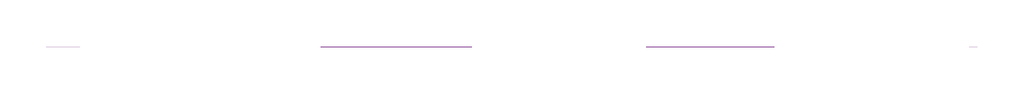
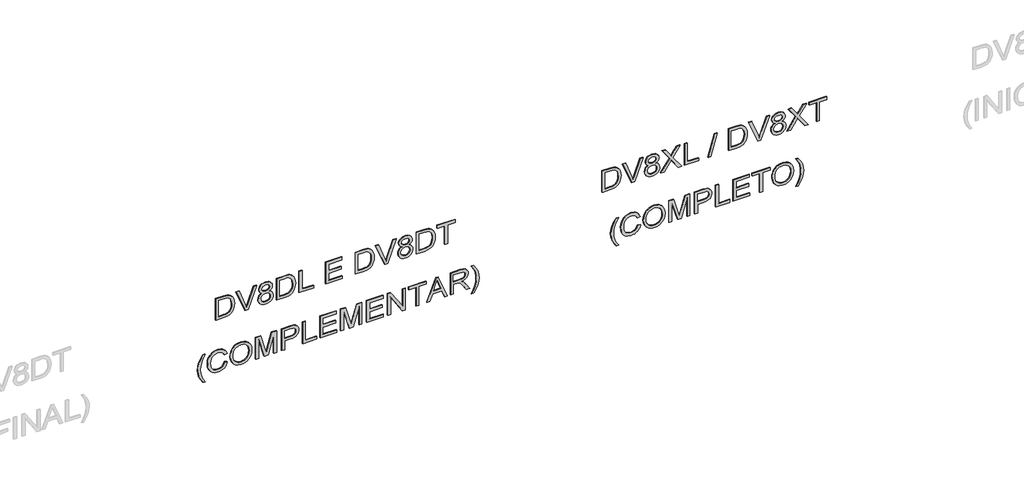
# One storey, part 4 of 7: 2 proxies.
"""IFC4 building model written with IfcOpenShell, lengths in millimetres."""

from ifc_helpers import new_model, si_unit, frame, origin, place, context, project, spatial, polyline, outline, extrude, element, save

model = new_model("IFC4")

# Units and contexts
model_context = context("Model", 3, world=origin())
ifc_project = project(units=[si_unit("LENGTHUNIT", "METRE", prefix="MILLI")], contexts=[model_context])

# Site, building, storey
site = spatial("IfcSite", under=ifc_project)
building = spatial("IfcBuilding", under=site)
storey = spatial("IfcBuildingStorey", under=building, Name="02 - Marelli - Planta Baixa - Painel Duplo", Elevation=-12000.0)

# Proxies
placement = place(None, origin())
element("IfcBuildingElementProxy", 1, Name="300mm Arial", ObjectType="300mm Arial", at=placement, inside=storey, context=model_context, shape_type="SweptSolid", body=[
    extrude(outline(polyline([(-6049.0625952, 22245.7423947), (-6049.0625952, 22354.7090417), (-6043.9122473, 22403.1591004), (-6037.5570858, 22422.7028314), (-6028.7922972, 22439.1747477), (-6016.9740882, 22453.5221456), (-6001.458665, 22466.692321), (-5981.8045694, 22478.133451), (-5957.570343, 22487.2937127), (-5929.1054736, 22493.3085833), (-5896.7594492, 22495.3135402), (-5858.6836627, 22492.3520901), (-5825.0960365, 22483.46774), (-5796.5483937, 22468.6237015), (-5773.5925572, 22447.7831864), (-5760.4039877, 22427.5128885), (-5752.0346723, 22403.4901942), (-5747.6936647, 22349.7058465), (-5747.6936647, 22245.7423947), (-6049.0625952, 22245.7423947)]), holes=[polyline([(-6011.3914789, 22283.413511), (-5785.364781, 22283.413511), (-5785.364781, 22349.0436589), (-5786.8730972, 22380.7918751), (-5791.3980458, 22402.4601246), (-5803.97961, 22423.7512951), (-5824.8017309, 22441.5659807), (-5855.1152073, 22453.6233131), (-5896.170838, 22457.6424239), (-5927.155699, 22455.5914818), (-5953.155759, 22449.4386554), (-5974.2629885, 22439.6070091), (-5990.5693579, 22426.5196071), (-5999.3801317, 22414.3427131), (-6005.9468253, 22398.5605755), (-6010.0303155, 22377.6464841), (-6011.3914789, 22350.0737285), (-6011.3914789, 22283.413511)])]), frame((0.0, 8778.3159498, 0.0), z_axis=(0.0, 1.0, 0.0), x_axis=(0.0, 0.0, 1.0)), (0.0, 0.0, 1.0), 10.0),
    extrude(outline(polyline([(-6049.0625952, 22636.138768), (-6049.0625952, 22675.0606831), (-5747.6936647, 22789.9134419), (-5747.6936647, 22749.5935753), (-5964.8176183, 22669.1009947), (-6013.7459236, 22653.0613397), (-5964.8176183, 22636.8009556), (-5747.6936647, 22556.5291042), (-5747.6936647, 22516.2092375), (-6049.0625952, 22636.138768)])), frame((0.0, 8778.3159498, 0.0), z_axis=(0.0, 1.0, 0.0), x_axis=(0.0, 0.0, 1.0)), (0.0, 0.0, 1.0), 10.0),
    extrude(outline(polyline([(-5883.074239, 22865.697133), (-5893.5588758, 22842.3734145), (-5910.4446594, 22825.0829607), (-5932.9590375, 22814.3775946), (-5960.3294579, 22810.8091393), (-5979.4800151, 22812.5105935), (-5996.9797017, 22817.6149562), (-6012.8285179, 22826.1222273), (-6027.0264637, 22838.0324069), (-6038.7274104, 22852.7200956), (-6047.0852295, 22869.5598939), (-6052.0999209, 22888.5518019), (-6053.7714847, 22909.6958196), (-6052.1068187, 22930.8398373), (-6047.1128206, 22949.8317453), (-6038.7894905, 22966.6715436), (-6027.1368283, 22981.3592322), (-6013.0377508, 22993.2694118), (-5997.3751749, 23001.776683), (-5980.1491004, 23006.8810457), (-5961.3595275, 23008.5824999), (-5935.0099796, 23005.1520003), (-5912.6151632, 22994.8605015), (-5895.0212068, 22977.9839149), (-5883.074239, 22954.7981522), (-5873.1690162, 22974.3234891), (-5859.7873087, 22988.1650491), (-5843.3521805, 22996.4148029), (-5824.2866961, 22999.1647208), (-5808.8908346, 22997.6196164), (-5794.7089837, 22992.9843033), (-5781.7411434, 22985.2587814), (-5769.9873136, 22974.4430507), (-5760.2338422, 22961.0935328), (-5753.267077, 22945.7666492), (-5747.6936647, 22909.1807848), (-5753.1383183, 22872.8156496), (-5759.9441352, 22857.6543128), (-5769.4722788, 22844.50713), (-5781.0007809, 22833.8845374), (-5793.8076728, 22826.2969713), (-5807.8929547, 22821.7444316), (-5823.2566265, 22820.2269184), (-5842.9567074, 22823.0136245), (-5859.6769441, 22831.3737428), (-5873.1414251, 22845.5280026), (-5883.074239, 22865.697133)]), holes=[polyline([(-5824.3602725, 22857.8980347), (-5809.4610517, 22861.2917461), (-5796.8426993, 22871.4728803), (-5788.2342606, 22887.8160379), (-5785.364781, 22909.6958196), (-5788.29864, 22931.4376455), (-5797.1002167, 22947.8083943), (-5810.2060128, 22958.0723019), (-5826.0525297, 22961.4936045), (-5841.3196325, 22958.1826665), (-5854.0115613, 22948.2498527), (-5862.5648177, 22932.0998331), (-5865.4159032, 22910.137278), (-5862.5464236, 22887.650491), (-5853.9379849, 22871.2521511), (-5840.8045977, 22861.2365638), (-5824.3602725, 22857.8980347)]), polyline([(-5959.0050828, 22848.4802556), (-5937.0241336, 22852.4625782), (-5919.0530981, 22864.409546), (-5907.0785391, 22883.4566363), (-5903.0870195, 22908.7393264), (-5907.1337214, 22934.6750071), (-5919.2738273, 22954.3566938), (-5937.5943506, 22966.7727111), (-5960.1823051, 22970.9113836), (-5982.3931806, 22966.9014698), (-6000.3182308, 22954.8717286), (-6012.154834, 22935.6315002), (-6016.1003684, 22909.9901252), (-6014.2241702, 22893.2514944), (-6008.5955757, 22877.0278984), (-5999.5364816, 22863.4806439), (-5987.3687846, 22854.7710377), (-5959.0050828, 22848.4802556)])]), frame((0.0, 8778.3159498, 0.0), z_axis=(0.0, 1.0, 0.0), x_axis=(0.0, 0.0, 1.0)), (0.0, 0.0, 1.0), 10.0),
    extrude(outline(polyline([(-6049.0625952, 23055.6713953), (-6049.0625952, 23164.6380422), (-6043.9122473, 23213.088101), (-6037.5570858, 23232.631832), (-6028.7922972, 23249.1037483), (-6016.9740882, 23263.4511461), (-6001.458665, 23276.6213216), (-5981.8045694, 23288.0624516), (-5957.570343, 23297.2227133), (-5929.1054736, 23303.2375839), (-5896.7594492, 23305.2425408), (-5858.6836627, 23302.2810907), (-5825.0960365, 23293.3967405), (-5796.5483937, 23278.552702), (-5773.5925572, 23257.712187), (-5760.4039877, 23237.4418891), (-5752.0346723, 23213.4191948), (-5747.6936647, 23159.6348471), (-5747.6936647, 23055.6713953), (-6049.0625952, 23055.6713953)]), holes=[polyline([(-6011.3914789, 23093.3425116), (-5785.364781, 23093.3425116), (-5785.364781, 23158.9726595), (-5786.8730972, 23190.7208757), (-5791.3980458, 23212.3891252), (-5803.97961, 23233.6802957), (-5824.8017309, 23251.4949813), (-5855.1152073, 23263.5523137), (-5896.170838, 23267.5714245), (-5927.155699, 23265.5204824), (-5953.155759, 23259.367656), (-5974.2629885, 23249.5360097), (-5990.5693579, 23236.4486077), (-5999.3801317, 23224.2717137), (-6005.9468253, 23208.4895761), (-6010.0303155, 23187.5754846), (-6011.3914789, 23160.0027291), (-6011.3914789, 23093.3425116)])]), frame((0.0, 8778.3159498, 0.0), z_axis=(0.0, 1.0, 0.0), x_axis=(0.0, 0.0, 1.0)), (0.0, 0.0, 1.0), 10.0),
    extrude(outline(polyline([(-6049.0625952, 23357.0403257), (-6049.0625952, 23545.3959072), (-6011.3914789, 23545.3959072), (-6011.3914789, 23394.711442), (-5747.6936647, 23394.711442), (-5747.6936647, 23357.0403257), (-6049.0625952, 23357.0403257)])), frame((0.0, 8778.3159498, 0.0), z_axis=(0.0, 1.0, 0.0), x_axis=(0.0, 0.0, 1.0)), (0.0, 0.0, 1.0), 10.0),
    extrude(outline(polyline([(-6049.0625952, 23705.4981515), (-6049.0625952, 23926.8159598), (-6011.3914789, 23926.8159598), (-6011.3914789, 23743.1692679), (-5912.5047986, 23743.1692679), (-5912.5047986, 23912.6892912), (-5874.8336823, 23912.6892912), (-5874.8336823, 23743.1692679), (-5785.364781, 23743.1692679), (-5785.364781, 23922.1070703), (-5747.6936647, 23922.1070703), (-5747.6936647, 23705.4981515), (-6049.0625952, 23705.4981515)])), frame((0.0, 8778.3159498, 0.0), z_axis=(0.0, 1.0, 0.0), x_axis=(0.0, 0.0, 1.0)), (0.0, 0.0, 1.0), 10.0),
    extrude(outline(polyline([(-6049.0625952, 24101.0448728), (-6049.0625952, 24210.0115197), (-6043.9122473, 24258.4615785), (-6037.5570858, 24278.0053095), (-6028.7922972, 24294.4772258), (-6016.9740882, 24308.8246236), (-6001.458665, 24321.9947991), (-5981.8045694, 24333.4359291), (-5957.570343, 24342.5961908), (-5929.1054736, 24348.6110614), (-5896.7594492, 24350.6160183), (-5858.6836627, 24347.6545682), (-5825.0960365, 24338.770218), (-5796.5483937, 24323.9261795), (-5773.5925572, 24303.0856645), (-5760.4039877, 24282.8153666), (-5752.0346723, 24258.7926723), (-5747.6936647, 24205.0083246), (-5747.6936647, 24101.0448728), (-6049.0625952, 24101.0448728)]), holes=[polyline([(-6011.3914789, 24138.7159891), (-5785.364781, 24138.7159891), (-5785.364781, 24204.346137), (-5786.8730972, 24236.0943532), (-5791.3980458, 24257.7626027), (-5803.97961, 24279.0537732), (-5824.8017309, 24296.8684588), (-5855.1152073, 24308.9257912), (-5896.170838, 24312.944902), (-5927.155699, 24310.8939599), (-5953.155759, 24304.7411335), (-5974.2629885, 24294.9094872), (-5990.5693579, 24281.8220852), (-5999.3801317, 24269.6451911), (-6005.9468253, 24253.8630536), (-6010.0303155, 24232.9489621), (-6011.3914789, 24205.3762066), (-6011.3914789, 24138.7159891)])]), frame((0.0, 8778.3159498, 0.0), z_axis=(0.0, 1.0, 0.0), x_axis=(0.0, 0.0, 1.0)), (0.0, 0.0, 1.0), 10.0),
    extrude(outline(polyline([(-6049.0625952, 24491.441246), (-6049.0625952, 24530.3631611), (-5747.6936647, 24645.21592), (-5747.6936647, 24604.8960534), (-5964.8176183, 24524.4034728), (-6013.7459236, 24508.3638178), (-5964.8176183, 24492.1034336), (-5747.6936647, 24411.8315823), (-5747.6936647, 24371.5117156), (-6049.0625952, 24491.441246)])), frame((0.0, 8778.3159498, 0.0), z_axis=(0.0, 1.0, 0.0), x_axis=(0.0, 0.0, 1.0)), (0.0, 0.0, 1.0), 10.0),
    extrude(outline(polyline([(-5883.074239, 24720.999611), (-5893.5588758, 24697.6758925), (-5910.4446594, 24680.3854388), (-5932.9590375, 24669.6800727), (-5960.3294579, 24666.1116174), (-5979.4800151, 24667.8130716), (-5996.9797017, 24672.9174343), (-6012.8285179, 24681.4247054), (-6027.0264637, 24693.334885), (-6038.7274104, 24708.0225737), (-6047.0852295, 24724.862372), (-6052.0999209, 24743.85428), (-6053.7714847, 24764.9982977), (-6052.1068187, 24786.1423153), (-6047.1128206, 24805.1342233), (-6038.7894905, 24821.9740217), (-6027.1368283, 24836.6617103), (-6013.0377508, 24848.5718899), (-5997.3751749, 24857.079161), (-5980.1491004, 24862.1835237), (-5961.3595275, 24863.884978), (-5935.0099796, 24860.4544784), (-5912.6151632, 24850.1629795), (-5895.0212068, 24833.286393), (-5883.074239, 24810.1006303), (-5873.1690162, 24829.6259672), (-5859.7873087, 24843.4675272), (-5843.3521805, 24851.717281), (-5824.2866961, 24854.4671989), (-5808.8908346, 24852.9220945), (-5794.7089837, 24848.2867814), (-5781.7411434, 24840.5612595), (-5769.9873136, 24829.7455288), (-5760.2338422, 24816.3960109), (-5753.267077, 24801.0691273), (-5747.6936647, 24764.4832629), (-5753.1383183, 24728.1181276), (-5759.9441352, 24712.9567909), (-5769.4722788, 24699.8096081), (-5781.0007809, 24689.1870155), (-5793.8076728, 24681.5994493), (-5807.8929547, 24677.0469097), (-5823.2566265, 24675.5293964), (-5842.9567074, 24678.3161025), (-5859.6769441, 24686.6762209), (-5873.1414251, 24700.8304806), (-5883.074239, 24720.999611)]), holes=[polyline([(-5824.3602725, 24713.2005127), (-5809.4610517, 24716.5942241), (-5796.8426993, 24726.7753584), (-5788.2342606, 24743.118516), (-5785.364781, 24764.9982977), (-5788.29864, 24786.7401236), (-5797.1002167, 24803.1108724), (-5810.2060128, 24813.37478), (-5826.0525297, 24816.7960826), (-5841.3196325, 24813.4851446), (-5854.0115613, 24803.5523307), (-5862.5648177, 24787.4023112), (-5865.4159032, 24765.439756), (-5862.5464236, 24742.9529691), (-5853.9379849, 24726.5546292), (-5840.8045977, 24716.5390418), (-5824.3602725, 24713.2005127)]), polyline([(-5959.0050828, 24703.7827337), (-5937.0241336, 24707.7650563), (-5919.0530981, 24719.712024), (-5907.0785391, 24738.7591143), (-5903.0870195, 24764.0418045), (-5907.1337214, 24789.9774851), (-5919.2738273, 24809.6591719), (-5937.5943506, 24822.0751892), (-5960.1823051, 24826.2138617), (-5982.3931806, 24822.2039479), (-6000.3182308, 24810.1742067), (-6012.154834, 24790.9339783), (-6016.1003684, 24765.2926032), (-6014.2241702, 24748.5539725), (-6008.5955757, 24732.3303765), (-5999.5364816, 24718.783122), (-5987.3687846, 24710.0735158), (-5959.0050828, 24703.7827337)])]), frame((0.0, 8778.3159498, 0.0), z_axis=(0.0, 1.0, 0.0), x_axis=(0.0, 0.0, 1.0)), (0.0, 0.0, 1.0), 10.0),
    extrude(outline(polyline([(-6049.0625952, 24910.9738733), (-6049.0625952, 25019.9405203), (-6043.9122473, 25068.3905791), (-6037.5570858, 25087.9343101), (-6028.7922972, 25104.4062264), (-6016.9740882, 25118.7536242), (-6001.458665, 25131.9237996), (-5981.8045694, 25143.3649297), (-5957.570343, 25152.5251914), (-5929.1054736, 25158.540062), (-5896.7594492, 25160.5450189), (-5858.6836627, 25157.5835688), (-5825.0960365, 25148.6992186), (-5796.5483937, 25133.8551801), (-5773.5925572, 25113.0146651), (-5760.4039877, 25092.7443672), (-5752.0346723, 25068.7216729), (-5747.6936647, 25014.9373252), (-5747.6936647, 24910.9738733), (-6049.0625952, 24910.9738733)]), holes=[polyline([(-6011.3914789, 24948.6449896), (-5785.364781, 24948.6449896), (-5785.364781, 25014.2751376), (-5786.8730972, 25046.0233538), (-5791.3980458, 25067.6916033), (-5803.97961, 25088.9827738), (-5824.8017309, 25106.7974594), (-5855.1152073, 25118.8547918), (-5896.170838, 25122.8739026), (-5927.155699, 25120.8229604), (-5953.155759, 25114.6701341), (-5974.2629885, 25104.8384877), (-5990.5693579, 25091.7510858), (-5999.3801317, 25079.5741917), (-6005.9468253, 25063.7920541), (-6010.0303155, 25042.8779627), (-6011.3914789, 25015.3052072), (-6011.3914789, 24948.6449896)])]), frame((0.0, 8778.3159498, 0.0), z_axis=(0.0, 1.0, 0.0), x_axis=(0.0, 0.0, 1.0)), (0.0, 0.0, 1.0), 10.0),
    extrude(outline(polyline([(-6049.0625952, 25287.6850364), (-6049.0625952, 25325.3561527), (-5785.364781, 25325.3561527), (-5785.364781, 25424.242833), (-5747.6936647, 25424.242833), (-5747.6936647, 25188.7983561), (-5785.364781, 25188.7983561), (-5785.364781, 25287.6850364), (-6049.0625952, 25287.6850364)])), frame((0.0, 8778.3159498, 0.0), z_axis=(0.0, 1.0, 0.0), x_axis=(0.0, 0.0, 1.0)), (0.0, 0.0, 1.0), 10.0),
    extrude(outline(polyline([(-6865.6715139, 22080.9312608), (-6865.6715139, 22109.1845981), (-6817.4329873, 22080.3426497), (-6769.1760666, 22059.7412579), (-6720.9007518, 22047.3804229), (-6672.6070429, 22043.2601445), (-6634.7335915, 22045.6329834), (-6597.0440811, 22052.7515), (-6539.2130314, 22073.9415029), (-6479.5425718, 22109.1845981), (-6479.5425718, 22080.9312608), (-6530.0527697, 22046.2399887), (-6580.7836969, 22021.9229888), (-6625.5733298, 22009.6725184), (-6672.3863137, 22005.5890282), (-6725.7659912, 22011.0520759), (-6777.3062587, 22027.4412187), (-6824.7078538, 22051.7398245), (-6865.6715139, 22080.9312608)])), frame((0.0, 8778.3159498, 0.0), z_axis=(0.0, 1.0, 0.0), x_axis=(0.0, 0.0, 1.0)), (0.0, 0.0, 1.0), 10.0),
    extrude(outline(polyline([(-6673.7842653, 22363.4646331), (-6706.0475162, 22351.278542), (-6729.2608701, 22331.4956878), (-6743.2771741, 22305.2932927), (-6747.9492755, 22273.8485791), (-6744.5187759, 22246.8736318), (-6734.2272771, 22221.8668532), (-6717.0012026, 22201.0079441), (-6692.7669762, 22186.4766053), (-6662.674229, 22177.95094), (-6627.8725923, 22175.1090516), (-6599.4537081, 22177.5094816), (-6571.8809526, 22184.7107717), (-6547.4903763, 22197.8349619), (-6528.61803, 22218.0040922), (-6516.5331064, 22244.5835664), (-6512.5047986, 22276.9387879), (-6516.1376333, 22305.0081841), (-6527.0361374, 22327.853656), (-6545.8808926, 22345.6959328), (-6573.3524806, 22358.7557436), (-6564.3761599, 22396.4268599), (-6526.5578908, 22379.7893967), (-6511.2356057, 22367.9872824), (-6498.3045536, 22353.8629131), (-6488.0360474, 22337.6830031), (-6480.7014001, 22319.7142669), (-6474.8336823, 22278.4103159), (-6479.3678279, 22240.5552586), (-6492.9702646, 22206.0111392), (-6515.3098988, 22176.8840822), (-6546.0556365, 22155.2802121), (-6584.0026643, 22141.8985045), (-6627.9461687, 22137.4379353), (-6669.6088046, 22141.3834697), (-6708.5123256, 22153.2200729), (-6741.6033111, 22172.607454), (-6765.8283405, 22199.2053223), (-6780.672379, 22233.9057915), (-6785.6203918, 22277.6009755), (-6783.9856162, 22300.0233831), (-6779.0812893, 22320.6431689), (-6770.9074112, 22339.460333), (-6759.4639819, 22356.4748752), (-6744.9073512, 22371.3511034), (-6727.393869, 22383.7533252), (-6706.9235352, 22393.6815405), (-6683.4963499, 22401.1357494), (-6673.7842653, 22363.4646331)])), frame((0.0, 8778.3159498, 0.0), z_axis=(0.0, 1.0, 0.0), x_axis=(0.0, 0.0, 1.0)), (0.0, 0.0, 1.0), 10.0),
    extrude(outline(polyline([(-6634.2001626, 22438.8068658), (-6672.7449986, 22443.1110851), (-6709.2113014, 22456.0237431), (-6740.9043353, 22477.2873224), (-6765.1293647, 22506.6443057), (-6780.497635, 22542.292071), (-6785.6203918, 22582.4279967), (-6780.9850787, 22620.2370687), (-6767.0791392, 22655.3789963), (-6744.1600909, 22685.3429848), (-6712.4854512, 22707.6182396), (-6674.0233886, 22721.4414056), (-6630.7420718, 22726.0491276), (-6588.0309722, 22721.6713318), (-6550.1023385, 22708.5379446), (-6518.482881, 22687.0536361), (-6494.69931, 22657.6230765), (-6479.8000892, 22622.1776462), (-6474.8336823, 22582.6487259), (-6477.4778341, 22552.3582421), (-6485.4102896, 22524.9832231), (-6498.6310488, 22500.523669), (-6517.1401117, 22478.9795796), (-6540.3212759, 22461.4040173), (-6567.5583392, 22448.8500442), (-6598.8513014, 22441.3176604), (-6634.2001626, 22438.8068658)]), holes=[polyline([(-6634.5680446, 22476.4779821), (-6604.0315397, 22478.4415522), (-6578.1993259, 22484.3322627), (-6557.071403, 22494.1501134), (-6540.6477712, 22507.8951044), (-6528.3352207, 22524.3624223), (-6519.5405417, 22542.3472533), (-6514.2637344, 22561.8495976), (-6512.5047986, 22582.8694551), (-6516.1560274, 22612.0333002), (-6527.1097138, 22638.1621189), (-6544.7036702, 22659.8211714), (-6568.275709, 22675.5757178), (-6597.0992634, 22685.1774379), (-6630.4477662, 22688.3780113), (-6656.9858537, 22686.5087109), (-6680.3141707, 22680.9008097), (-6700.4327173, 22671.5543078), (-6717.3414935, 22658.4692051), (-6730.7323981, 22642.4870316), (-6740.29733, 22624.4493176), (-6746.0362891, 22604.3560628), (-6747.9492755, 22582.2072675), (-6746.0546832, 22560.4309526), (-6740.3709064, 22540.5722227), (-6730.897945, 22522.6310776), (-6717.6357991, 22506.6075175), (-6701.0765108, 22493.4258457), (-6681.7121223, 22484.0103659), (-6659.5426335, 22478.361078), (-6634.5680446, 22476.4779821)])]), frame((0.0, 8778.3159498, 0.0), z_axis=(0.0, 1.0, 0.0), x_axis=(0.0, 0.0, 1.0)), (0.0, 0.0, 1.0), 10.0),
    extrude(outline(polyline([(-6780.9115023, 22777.8469125), (-6780.9115023, 22815.5180288), (-6517.2136881, 22815.5180288), (-6780.9115023, 22891.2281434), (-6780.9115023, 22942.2901644), (-6517.2136881, 23018.000279), (-6780.9115023, 23018.000279), (-6780.9115023, 23055.6713953), (-6479.5425718, 23055.6713953), (-6479.5425718, 22990.8505877), (-6688.2788159, 22930.2236349), (-6736.3242044, 22916.7591539), (-6691.9576358, 22904.3247424), (-6479.5425718, 22842.6677201), (-6479.5425718, 22777.8469125), (-6780.9115023, 22777.8469125)])), frame((0.0, 8778.3159498, 0.0), z_axis=(0.0, 1.0, 0.0), x_axis=(0.0, 0.0, 1.0)), (0.0, 0.0, 1.0), 10.0),
    extrude(outline(polyline([(-6780.9115023, 23121.5958488), (-6780.9115023, 23159.2669651), (-6658.4803743, 23159.2669651), (-6658.4803743, 23235.8599965), (-6656.8157082, 23265.0583306), (-6651.8217101, 23289.3776298), (-6643.49838, 23308.8178939), (-6631.8457178, 23323.3791232), (-6617.7880271, 23333.9856209), (-6602.2496113, 23341.5616908), (-6585.2304705, 23346.1073327), (-6566.7306047, 23347.6225466), (-6545.2738873, 23345.3784665), (-6525.6381858, 23338.646226), (-6508.9915255, 23328.2259684), (-6496.5019318, 23314.9178373), (-6487.7739314, 23298.3907386), (-6482.4120514, 23278.3135787), (-6479.5425718, 23233.2848225), (-6479.5425718, 23121.5958488), (-6780.9115023, 23121.5958488)]), holes=[polyline([(-6620.809258, 23159.2669651), (-6517.2136881, 23159.2669651), (-6517.2136881, 23237.1843717), (-6519.7888621, 23274.855488), (-6526.1164324, 23289.0833242), (-6536.8585867, 23300.2761339), (-6551.1324081, 23307.5326062), (-6568.0549798, 23309.9514303), (-6590.3302347, 23305.8495461), (-6606.9768949, 23293.5438933), (-6617.3511672, 23271.4709736), (-6620.809258, 23238.0672885), (-6620.809258, 23159.2669651)])]), frame((0.0, 8778.3159498, 0.0), z_axis=(0.0, 1.0, 0.0), x_axis=(0.0, 0.0, 1.0)), (0.0, 0.0, 1.0), 10.0),
    extrude(outline(polyline([(-6780.9115023, 23399.4203316), (-6780.9115023, 23587.7759131), (-6743.2403859, 23587.7759131), (-6743.2403859, 23437.0914479), (-6479.5425718, 23437.0914479), (-6479.5425718, 23399.4203316), (-6780.9115023, 23399.4203316)])), frame((0.0, 8778.3159498, 0.0), z_axis=(0.0, 1.0, 0.0), x_axis=(0.0, 0.0, 1.0)), (0.0, 0.0, 1.0), 10.0),
    extrude(outline(polyline([(-6780.9115023, 23630.1559189), (-6780.9115023, 23851.4737272), (-6743.2403859, 23851.4737272), (-6743.2403859, 23667.8270352), (-6644.3537056, 23667.8270352), (-6644.3537056, 23837.3470586), (-6606.6825893, 23837.3470586), (-6606.6825893, 23667.8270352), (-6517.2136881, 23667.8270352), (-6517.2136881, 23846.7648377), (-6479.5425718, 23846.7648377), (-6479.5425718, 23630.1559189), (-6780.9115023, 23630.1559189)])), frame((0.0, 8778.3159498, 0.0), z_axis=(0.0, 1.0, 0.0), x_axis=(0.0, 0.0, 1.0)), (0.0, 0.0, 1.0), 10.0),
    extrude(outline(polyline([(-6780.9115023, 23907.9804017), (-6780.9115023, 23945.651518), (-6517.2136881, 23945.651518), (-6780.9115023, 24021.3616326), (-6780.9115023, 24072.4236535), (-6517.2136881, 24148.1337681), (-6780.9115023, 24148.1337681), (-6780.9115023, 24185.8048844), (-6479.5425718, 24185.8048844), (-6479.5425718, 24120.9840769), (-6688.2788159, 24060.3571241), (-6736.3242044, 24046.8926431), (-6691.9576358, 24034.4582316), (-6479.5425718, 23972.8012092), (-6479.5425718, 23907.9804017), (-6780.9115023, 23907.9804017)])), frame((0.0, 8778.3159498, 0.0), z_axis=(0.0, 1.0, 0.0), x_axis=(0.0, 0.0, 1.0)), (0.0, 0.0, 1.0), 10.0),
    extrude(outline(polyline([(-6780.9115023, 24251.729338), (-6780.9115023, 24473.0471463), (-6743.2403859, 24473.0471463), (-6743.2403859, 24289.4004543), (-6644.3537056, 24289.4004543), (-6644.3537056, 24458.9204777), (-6606.6825893, 24458.9204777), (-6606.6825893, 24289.4004543), (-6517.2136881, 24289.4004543), (-6517.2136881, 24468.3382567), (-6479.5425718, 24468.3382567), (-6479.5425718, 24251.729338), (-6780.9115023, 24251.729338)])), frame((0.0, 8778.3159498, 0.0), z_axis=(0.0, 1.0, 0.0), x_axis=(0.0, 0.0, 1.0)), (0.0, 0.0, 1.0), 10.0),
    extrude(outline(polyline([(-6780.9115023, 24529.5538207), (-6780.9115023, 24567.224937), (-6542.082511, 24567.224937), (-6780.9115023, 24724.678431), (-6780.9115023, 24764.9982977), (-6479.5425718, 24764.9982977), (-6479.5425718, 24727.3271813), (-6718.2979867, 24727.3271813), (-6479.5425718, 24569.8736874), (-6479.5425718, 24529.5538207), (-6780.9115023, 24529.5538207)])), frame((0.0, 8778.3159498, 0.0), z_axis=(0.0, 1.0, 0.0), x_axis=(0.0, 0.0, 1.0)), (0.0, 0.0, 1.0), 10.0),
    extrude(outline(polyline([(-6780.9115023, 24906.2649838), (-6780.9115023, 24943.9361001), (-6517.2136881, 24943.9361001), (-6517.2136881, 25042.8227804), (-6479.5425718, 25042.8227804), (-6479.5425718, 24807.3783035), (-6517.2136881, 24807.3783035), (-6517.2136881, 24906.2649838), (-6780.9115023, 24906.2649838)])), frame((0.0, 8778.3159498, 0.0), z_axis=(0.0, 1.0, 0.0), x_axis=(0.0, 0.0, 1.0)), (0.0, 0.0, 1.0), 10.0),
    extrude(outline(polyline([(-6780.9115023, 25050.1068439), (-6780.9115023, 25089.9116758), (-6686.7337115, 25124.3454305), (-6686.7337115, 25248.4688157), (-6780.9115023, 25282.9761469), (-6780.9115023, 25322.7809787), (-6479.5425718, 25202.4835663), (-6479.5425718, 25170.4042563), (-6780.9115023, 25050.1068439)]), holes=[polyline([(-6649.0625952, 25138.1777936), (-6568.4964382, 25167.6819296), (-6517.2136881, 25186.4439113), (-6574.9711614, 25207.5603379), (-6649.0625952, 25234.7100291), (-6649.0625952, 25138.1777936)])]), frame((0.0, 8778.3159498, 0.0), z_axis=(0.0, 1.0, 0.0), x_axis=(0.0, 0.0, 1.0)), (0.0, 0.0, 1.0), 10.0),
    extrude(outline(polyline([(-6780.9115023, 25363.027269), (-6780.9115023, 25400.6983853), (-6649.0625952, 25400.6983853), (-6649.0625952, 25446.1685999), (-6650.3869704, 25468.0207904), (-6657.5606693, 25485.9366436), (-6677.0952032, 25505.8390595), (-6718.4451395, 25534.1659732), (-6780.9115023, 25573.3821939), (-6780.9115023, 25617.1601513), (-6699.2416993, 25566.9074707), (-6660.466937, 25536.3732651), (-6644.3537056, 25514.962533), (-6634.3657095, 25552.0726293), (-6626.3504805, 25566.454516), (-6616.3210976, 25578.0542952), (-6591.7097921, 25593.3673832), (-6562.0217151, 25598.4717459), (-6538.1553707, 25595.3907342), (-6516.4411359, 25586.1476991), (-6498.929953, 25571.745119), (-6487.6727639, 25553.1854723), (-6481.5751198, 25527.7924176), (-6479.5425718, 25492.8896133), (-6479.5425718, 25363.027269), (-6780.9115023, 25363.027269)]), holes=[polyline([(-6611.3914789, 25400.6983853), (-6517.2136881, 25400.6983853), (-6517.2136881, 25494.5082941), (-6520.4694438, 25524.3159327), (-6530.2367107, 25544.8713392), (-6545.043961, 25556.818307), (-6563.4196667, 25560.8006296), (-6576.7277979, 25558.7128993), (-6588.9874654, 25552.4497083), (-6599.1226143, 25542.1674066), (-6606.0571899, 25528.0223438), (-6610.0579066, 25509.2327709), (-6611.3914789, 25485.0169386), (-6611.3914789, 25400.6983853)])]), frame((0.0, 8778.3159498, 0.0), z_axis=(0.0, 1.0, 0.0), x_axis=(0.0, 0.0, 1.0)), (0.0, 0.0, 1.0), 10.0),
    extrude(outline(polyline([(-6865.6715139, 25669.105089), (-6824.7078538, 25698.1585696), (-6777.3062587, 25722.4847665), (-6725.7659912, 25738.9566828), (-6672.3863137, 25744.4473216), (-6625.5733298, 25740.3638315), (-6580.7836969, 25728.113361), (-6530.0527697, 25703.7963611), (-6479.5425718, 25669.105089), (-6479.5425718, 25640.8517518), (-6539.8016426, 25676.3155761), (-6568.1469503, 25688.290135), (-6597.7062687, 25697.2848498), (-6635.009503, 25704.4033664), (-6672.6070429, 25706.7762053), (-6720.9007518, 25702.655927), (-6769.1760666, 25690.2950919), (-6817.4329873, 25669.6937002), (-6865.6715139, 25640.8517518), (-6865.6715139, 25669.105089)])), frame((0.0, 8778.3159498, 0.0), z_axis=(0.0, 1.0, 0.0), x_axis=(0.0, 0.0, 1.0)), (0.0, 0.0, 1.0), 10.0),
])
element("IfcBuildingElementProxy", 2, Name="300mm Arial", ObjectType="300mm Arial", at=placement, inside=storey, context=model_context, shape_type="SweptSolid", body=[
    extrude(outline(polyline([(-6049.0625952, 27377.5913018), (-6049.0625952, 27486.5579487), (-6043.9122473, 27535.0080075), (-6037.5570858, 27554.5517385), (-6028.7922972, 27571.0236548), (-6016.9740882, 27585.3710526), (-6001.458665, 27598.5412281), (-5981.8045694, 27609.9823581), (-5957.570343, 27619.1426198), (-5929.1054736, 27625.1574904), (-5896.7594492, 27627.1624473), (-5858.6836627, 27624.2009972), (-5825.0960365, 27615.316647), (-5796.5483937, 27600.4726085), (-5773.5925572, 27579.6320935), (-5760.4039877, 27559.3617956), (-5752.0346723, 27535.3391013), (-5747.6936647, 27481.5547536), (-5747.6936647, 27377.5913018), (-6049.0625952, 27377.5913018)]), holes=[polyline([(-6011.3914789, 27415.2624181), (-5785.364781, 27415.2624181), (-5785.364781, 27480.892566), (-5786.8730972, 27512.6407822), (-5791.3980458, 27534.3090317), (-5803.97961, 27555.6002022), (-5824.8017309, 27573.4148878), (-5855.1152073, 27585.4722202), (-5896.170838, 27589.491331), (-5927.155699, 27587.4403889), (-5953.155759, 27581.2875625), (-5974.2629885, 27571.4559162), (-5990.5693579, 27558.3685142), (-5999.3801317, 27546.1916201), (-6005.9468253, 27530.4094826), (-6010.0303155, 27509.4953911), (-6011.3914789, 27481.9226356), (-6011.3914789, 27415.2624181)])]), frame((0.0, 8778.3159498, 0.0), z_axis=(0.0, 1.0, 0.0), x_axis=(0.0, 0.0, 1.0)), (0.0, 0.0, 1.0), 10.0),
    extrude(outline(polyline([(-6049.0625952, 27767.987675), (-6049.0625952, 27806.9095901), (-5747.6936647, 27921.762349), (-5747.6936647, 27881.4424823), (-5964.8176183, 27800.9499018), (-6013.7459236, 27784.9102468), (-5964.8176183, 27768.6498626), (-5747.6936647, 27688.3780113), (-5747.6936647, 27648.0581446), (-6049.0625952, 27767.987675)])), frame((0.0, 8778.3159498, 0.0), z_axis=(0.0, 1.0, 0.0), x_axis=(0.0, 0.0, 1.0)), (0.0, 0.0, 1.0), 10.0),
    extrude(outline(polyline([(-5883.074239, 27997.54604), (-5893.5588758, 27974.2223215), (-5910.4446594, 27956.9318678), (-5932.9590375, 27946.2265017), (-5960.3294579, 27942.6580463), (-5979.4800151, 27944.3595006), (-5996.9797017, 27949.4638633), (-6012.8285179, 27957.9711344), (-6027.0264637, 27969.881314), (-6038.7274104, 27984.5690026), (-6047.0852295, 28001.408801), (-6052.0999209, 28020.400709), (-6053.7714847, 28041.5447266), (-6052.1068187, 28062.6887443), (-6047.1128206, 28081.6806523), (-6038.7894905, 28098.5204507), (-6027.1368283, 28113.2081393), (-6013.0377508, 28125.1183189), (-5997.3751749, 28133.62559), (-5980.1491004, 28138.7299527), (-5961.3595275, 28140.431407), (-5935.0099796, 28137.0009073), (-5912.6151632, 28126.7094085), (-5895.0212068, 28109.832822), (-5883.074239, 28086.6470593), (-5873.1690162, 28106.1723962), (-5859.7873087, 28120.0139562), (-5843.3521805, 28128.26371), (-5824.2866961, 28131.0136279), (-5808.8908346, 28129.4685235), (-5794.7089837, 28124.8332104), (-5781.7411434, 28117.1076885), (-5769.9873136, 28106.2919578), (-5760.2338422, 28092.9424399), (-5753.267077, 28077.6155563), (-5747.6936647, 28041.0296919), (-5753.1383183, 28004.6645566), (-5759.9441352, 27989.5032199), (-5769.4722788, 27976.3560371), (-5781.0007809, 27965.7334445), (-5793.8076728, 27958.1458783), (-5807.8929547, 27953.5933387), (-5823.2566265, 27952.0758254), (-5842.9567074, 27954.8625315), (-5859.6769441, 27963.2226499), (-5873.1414251, 27977.3769096), (-5883.074239, 27997.54604)]), holes=[polyline([(-5824.3602725, 27989.7469417), (-5809.4610517, 27993.1406531), (-5796.8426993, 28003.3217874), (-5788.2342606, 28019.664945), (-5785.364781, 28041.5447266), (-5788.29864, 28063.2865526), (-5797.1002167, 28079.6573013), (-5810.2060128, 28089.921209), (-5826.0525297, 28093.3425116), (-5841.3196325, 28090.0315736), (-5854.0115613, 28080.0987597), (-5862.5648177, 28063.9487402), (-5865.4159032, 28041.986185), (-5862.5464236, 28019.4993981), (-5853.9379849, 28003.1010582), (-5840.8045977, 27993.0854708), (-5824.3602725, 27989.7469417)]), polyline([(-5959.0050828, 27980.3291627), (-5937.0241336, 27984.3114852), (-5919.0530981, 27996.258453), (-5907.0785391, 28015.3055433), (-5903.0870195, 28040.5882335), (-5907.1337214, 28066.5239141), (-5919.2738273, 28086.2056009), (-5937.5943506, 28098.6216182), (-5960.1823051, 28102.7602906), (-5982.3931806, 28098.7503769), (-6000.3182308, 28086.7206357), (-6012.154834, 28067.4804073), (-6016.1003684, 28041.8390322), (-6014.2241702, 28025.1004015), (-6008.5955757, 28008.8768055), (-5999.5364816, 27995.329551), (-5987.3687846, 27986.6199448), (-5959.0050828, 27980.3291627)])]), frame((0.0, 8778.3159498, 0.0), z_axis=(0.0, 1.0, 0.0), x_axis=(0.0, 0.0, 1.0)), (0.0, 0.0, 1.0), 10.0),
    extrude(outline(polyline([(-6049.0625952, 28154.5580756), (-6049.0625952, 28200.3961722), (-5942.082511, 28275.959134), (-5917.2136881, 28293.6910461), (-5939.875219, 28309.8042775), (-6049.0625952, 28387.2066493), (-6049.0625952, 28432.3825583), (-5885.2815309, 28316.2054242), (-5747.6936647, 28413.5470002), (-5747.6936647, 28367.7089036), (-5824.3602725, 28313.4830975), (-5854.9680545, 28291.8516362), (-5824.8753073, 28273.38396), (-5747.6936647, 28218.5695427), (-5747.6936647, 28173.3936337), (-5884.8400725, 28270.7352096), (-6049.0625952, 28154.5580756)])), frame((0.0, 8778.3159498, 0.0), z_axis=(0.0, 1.0, 0.0), x_axis=(0.0, 0.0, 1.0)), (0.0, 0.0, 1.0), 10.0),
    extrude(outline(polyline([(-6049.0625952, 28470.0536746), (-6049.0625952, 28658.4092562), (-6011.3914789, 28658.4092562), (-6011.3914789, 28507.7247909), (-5747.6936647, 28507.7247909), (-5747.6936647, 28470.0536746), (-6049.0625952, 28470.0536746)])), frame((0.0, 8778.3159498, 0.0), z_axis=(0.0, 1.0, 0.0), x_axis=(0.0, 0.0, 1.0)), (0.0, 0.0, 1.0), 10.0),
    extrude(outline(polyline([(-6049.0625952, 28785.5492737), (-6049.0625952, 28819.54157), (-5747.6936647, 28904.3015817), (-5747.6936647, 28870.3092854), (-6049.0625952, 28785.5492737)])), frame((0.0, 8778.3159498, 0.0), z_axis=(0.0, 1.0, 0.0), x_axis=(0.0, 0.0, 1.0)), (0.0, 0.0, 1.0), 10.0),
    extrude(outline(polyline([(-6049.0625952, 29053.9559774), (-6049.0625952, 29162.9226243), (-6043.9122473, 29211.3726831), (-6037.5570858, 29230.9164141), (-6028.7922972, 29247.3883304), (-6016.9740882, 29261.7357283), (-6001.458665, 29274.9059037), (-5981.8045694, 29286.3470337), (-5957.570343, 29295.5072954), (-5929.1054736, 29301.522166), (-5896.7594492, 29303.5271229), (-5858.6836627, 29300.5656728), (-5825.0960365, 29291.6813227), (-5796.5483937, 29276.8372842), (-5773.5925572, 29255.9967691), (-5760.4039877, 29235.7264712), (-5752.0346723, 29211.7037769), (-5747.6936647, 29157.9194292), (-5747.6936647, 29053.9559774), (-6049.0625952, 29053.9559774)]), holes=[polyline([(-6011.3914789, 29091.6270937), (-5785.364781, 29091.6270937), (-5785.364781, 29157.2572416), (-5786.8730972, 29189.0054578), (-5791.3980458, 29210.6737073), (-5803.97961, 29231.9648778), (-5824.8017309, 29249.7795634), (-5855.1152073, 29261.8368958), (-5896.170838, 29265.8560066), (-5927.155699, 29263.8050645), (-5953.155759, 29257.6522381), (-5974.2629885, 29247.8205918), (-5990.5693579, 29234.7331898), (-5999.3801317, 29222.5562958), (-6005.9468253, 29206.7741582), (-6010.0303155, 29185.8600667), (-6011.3914789, 29158.2873112), (-6011.3914789, 29091.6270937)])]), frame((0.0, 8778.3159498, 0.0), z_axis=(0.0, 1.0, 0.0), x_axis=(0.0, 0.0, 1.0)), (0.0, 0.0, 1.0), 10.0),
    extrude(outline(polyline([(-6049.0625952, 29444.3523507), (-6049.0625952, 29483.2742657), (-5747.6936647, 29598.1270246), (-5747.6936647, 29557.807158), (-5964.8176183, 29477.3145774), (-6013.7459236, 29461.2749224), (-5964.8176183, 29445.0145382), (-5747.6936647, 29364.7426869), (-5747.6936647, 29324.4228202), (-6049.0625952, 29444.3523507)])), frame((0.0, 8778.3159498, 0.0), z_axis=(0.0, 1.0, 0.0), x_axis=(0.0, 0.0, 1.0)), (0.0, 0.0, 1.0), 10.0),
    extrude(outline(polyline([(-5883.074239, 29673.9107156), (-5893.5588758, 29650.5869972), (-5910.4446594, 29633.2965434), (-5932.9590375, 29622.5911773), (-5960.3294579, 29619.022722), (-5979.4800151, 29620.7241762), (-5996.9797017, 29625.8285389), (-6012.8285179, 29634.33581), (-6027.0264637, 29646.2459896), (-6038.7274104, 29660.9336783), (-6047.0852295, 29677.7734766), (-6052.0999209, 29696.7653846), (-6053.7714847, 29717.9094023), (-6052.1068187, 29739.0534199), (-6047.1128206, 29758.0453279), (-6038.7894905, 29774.8851263), (-6027.1368283, 29789.5728149), (-6013.0377508, 29801.4829945), (-5997.3751749, 29809.9902657), (-5980.1491004, 29815.0946283), (-5961.3595275, 29816.7960826), (-5935.0099796, 29813.365583), (-5912.6151632, 29803.0740842), (-5895.0212068, 29786.1974976), (-5883.074239, 29763.0117349), (-5873.1690162, 29782.5370718), (-5859.7873087, 29796.3786318), (-5843.3521805, 29804.6283856), (-5824.2866961, 29807.3783035), (-5808.8908346, 29805.8331991), (-5794.7089837, 29801.197886), (-5781.7411434, 29793.4723641), (-5769.9873136, 29782.6566334), (-5760.2338422, 29769.3071155), (-5753.267077, 29753.9802319), (-5747.6936647, 29717.3943675), (-5753.1383183, 29681.0292323), (-5759.9441352, 29665.8678955), (-5769.4722788, 29652.7207127), (-5781.0007809, 29642.0981201), (-5793.8076728, 29634.510554), (-5807.8929547, 29629.9580143), (-5823.2566265, 29628.440501), (-5842.9567074, 29631.2272072), (-5859.6769441, 29639.5873255), (-5873.1414251, 29653.7415853), (-5883.074239, 29673.9107156)]), holes=[polyline([(-5824.3602725, 29666.1116174), (-5809.4610517, 29669.5053288), (-5796.8426993, 29679.686463), (-5788.2342606, 29696.0296206), (-5785.364781, 29717.9094023), (-5788.29864, 29739.6512282), (-5797.1002167, 29756.021977), (-5810.2060128, 29766.2858846), (-5826.0525297, 29769.7071872), (-5841.3196325, 29766.3962492), (-5854.0115613, 29756.4634354), (-5862.5648177, 29740.3134158), (-5865.4159032, 29718.3508607), (-5862.5464236, 29695.8640737), (-5853.9379849, 29679.4657338), (-5840.8045977, 29669.4501465), (-5824.3602725, 29666.1116174)]), polyline([(-5959.0050828, 29656.6938383), (-5937.0241336, 29660.6761609), (-5919.0530981, 29672.6231287), (-5907.0785391, 29691.670219), (-5903.0870195, 29716.9529091), (-5907.1337214, 29742.8885897), (-5919.2738273, 29762.5702765), (-5937.5943506, 29774.9862938), (-5960.1823051, 29779.1249663), (-5982.3931806, 29775.1150525), (-6000.3182308, 29763.0853113), (-6012.154834, 29743.8450829), (-6016.1003684, 29718.2037079), (-6014.2241702, 29701.4650771), (-6008.5955757, 29685.2414811), (-5999.5364816, 29671.6942266), (-5987.3687846, 29662.9846204), (-5959.0050828, 29656.6938383)])]), frame((0.0, 8778.3159498, 0.0), z_axis=(0.0, 1.0, 0.0), x_axis=(0.0, 0.0, 1.0)), (0.0, 0.0, 1.0), 10.0),
    extrude(outline(polyline([(-6049.0625952, 29830.9227512), (-6049.0625952, 29876.7608478), (-5942.082511, 29952.3238096), (-5917.2136881, 29970.0557218), (-5939.875219, 29986.1689532), (-6049.0625952, 30063.5713249), (-6049.0625952, 30108.7472339), (-5885.2815309, 29992.5700999), (-5747.6936647, 30089.9116758), (-5747.6936647, 30044.0735792), (-5824.3602725, 29989.8477731), (-5854.9680545, 29968.2163118), (-5824.8753073, 29949.7486356), (-5747.6936647, 29894.9342184), (-5747.6936647, 29849.7583093), (-5884.8400725, 29947.0998853), (-6049.0625952, 29830.9227512)])), frame((0.0, 8778.3159498, 0.0), z_axis=(0.0, 1.0, 0.0), x_axis=(0.0, 0.0, 1.0)), (0.0, 0.0, 1.0), 10.0),
    extrude(outline(polyline([(-6049.0625952, 30221.7605829), (-6049.0625952, 30259.4316992), (-5785.364781, 30259.4316992), (-5785.364781, 30358.3183795), (-5747.6936647, 30358.3183795), (-5747.6936647, 30122.8739026), (-5785.364781, 30122.8739026), (-5785.364781, 30221.7605829), (-6049.0625952, 30221.7605829)])), frame((0.0, 8778.3159498, 0.0), z_axis=(0.0, 1.0, 0.0), x_axis=(0.0, 0.0, 1.0)), (0.0, 0.0, 1.0), 10.0),
    extrude(outline(polyline([(-6865.6715139, 27565.9468833), (-6865.6715139, 27594.2002205), (-6817.4329873, 27565.3582721), (-6769.1760666, 27544.7568804), (-6720.9007518, 27532.3960453), (-6672.6070429, 27528.275767), (-6634.7335915, 27530.6486058), (-6597.0440811, 27537.7671225), (-6539.2130314, 27558.9571254), (-6479.5425718, 27594.2002205), (-6479.5425718, 27565.9468833), (-6530.0527697, 27531.2556111), (-6580.7836969, 27506.9386113), (-6625.5733298, 27494.6881408), (-6672.3863137, 27490.6046507), (-6725.7659912, 27496.0676983), (-6777.3062587, 27512.4568412), (-6824.7078538, 27536.755447), (-6865.6715139, 27565.9468833)])), frame((0.0, 8778.3159498, 0.0), z_axis=(0.0, 1.0, 0.0), x_axis=(0.0, 0.0, 1.0)), (0.0, 0.0, 1.0), 10.0),
    extrude(outline(polyline([(-6673.7842653, 27848.4802556), (-6706.0475162, 27836.2941645), (-6729.2608701, 27816.5113102), (-6743.2771741, 27790.3089151), (-6747.9492755, 27758.8642016), (-6744.5187759, 27731.8892543), (-6734.2272771, 27706.8824756), (-6717.0012026, 27686.0235665), (-6692.7669762, 27671.4922277), (-6662.674229, 27662.9665625), (-6627.8725923, 27660.1246741), (-6599.4537081, 27662.5251041), (-6571.8809526, 27669.7263941), (-6547.4903763, 27682.8505843), (-6528.61803, 27703.0197147), (-6516.5331064, 27729.5991888), (-6512.5047986, 27761.9544103), (-6516.1376333, 27790.0238065), (-6527.0361374, 27812.8692784), (-6545.8808926, 27830.7115552), (-6573.3524806, 27843.771366), (-6564.3761599, 27881.4424823), (-6526.5578908, 27864.8050191), (-6511.2356057, 27853.0029049), (-6498.3045536, 27838.8785355), (-6488.0360474, 27822.6986255), (-6480.7014001, 27804.7298893), (-6474.8336823, 27763.4259383), (-6479.3678279, 27725.570881), (-6492.9702646, 27691.0267616), (-6515.3098988, 27661.8997047), (-6546.0556365, 27640.2958345), (-6584.0026643, 27626.9141269), (-6627.9461687, 27622.4535577), (-6669.6088046, 27626.3990921), (-6708.5123256, 27638.2356953), (-6741.6033111, 27657.6230765), (-6765.8283405, 27684.2209447), (-6780.672379, 27718.9214139), (-6785.6203918, 27762.6165979), (-6783.9856162, 27785.0390055), (-6779.0812893, 27805.6587913), (-6770.9074112, 27824.4759554), (-6759.4639819, 27841.4904977), (-6744.9073512, 27856.3667259), (-6727.393869, 27868.7689476), (-6706.9235352, 27878.697163), (-6683.4963499, 27886.1513719), (-6673.7842653, 27848.4802556)])), frame((0.0, 8778.3159498, 0.0), z_axis=(0.0, 1.0, 0.0), x_axis=(0.0, 0.0, 1.0)), (0.0, 0.0, 1.0), 10.0),
    extrude(outline(polyline([(-6634.2001626, 27923.8224882), (-6672.7449986, 27928.1267075), (-6709.2113014, 27941.0393656), (-6740.9043353, 27962.3029449), (-6765.1293647, 27991.6599281), (-6780.497635, 28027.3076934), (-6785.6203918, 28067.4436191), (-6780.9850787, 28105.2526912), (-6767.0791392, 28140.3946188), (-6744.1600909, 28170.3586073), (-6712.4854512, 28192.6338621), (-6674.0233886, 28206.457028), (-6630.7420718, 28211.06475), (-6588.0309722, 28206.6869543), (-6550.1023385, 28193.5535671), (-6518.482881, 28172.0692585), (-6494.69931, 28142.6386989), (-6479.8000892, 28107.1932687), (-6474.8336823, 28067.6643483), (-6477.4778341, 28037.3738645), (-6485.4102896, 28009.9988456), (-6498.6310488, 27985.5392914), (-6517.1401117, 27963.9952021), (-6540.3212759, 27946.4196397), (-6567.5583392, 27933.8656667), (-6598.8513014, 27926.3332828), (-6634.2001626, 27923.8224882)]), holes=[polyline([(-6634.5680446, 27961.4936045), (-6604.0315397, 27963.4571746), (-6578.1993259, 27969.3478851), (-6557.071403, 27979.1657358), (-6540.6477712, 27992.9107269), (-6528.3352207, 28009.3780447), (-6519.5405417, 28027.3628757), (-6514.2637344, 28046.86522), (-6512.5047986, 28067.8850775), (-6516.1560274, 28097.0489227), (-6527.1097138, 28123.1777414), (-6544.7036702, 28144.8367938), (-6568.275709, 28160.5913403), (-6597.0992634, 28170.1930604), (-6630.4477662, 28173.3936337), (-6656.9858537, 28171.5243333), (-6680.3141707, 28165.9164322), (-6700.4327173, 28156.5699302), (-6717.3414935, 28143.4848275), (-6730.7323981, 28127.5026541), (-6740.29733, 28109.46494), (-6746.0362891, 28089.3716853), (-6747.9492755, 28067.2228899), (-6746.0546832, 28045.4465751), (-6740.3709064, 28025.5878451), (-6730.897945, 28007.6467001), (-6717.6357991, 27991.6231399), (-6701.0765108, 27978.4414682), (-6681.7121223, 27969.0259884), (-6659.5426335, 27963.3767005), (-6634.5680446, 27961.4936045)])]), frame((0.0, 8778.3159498, 0.0), z_axis=(0.0, 1.0, 0.0), x_axis=(0.0, 0.0, 1.0)), (0.0, 0.0, 1.0), 10.0),
    extrude(outline(polyline([(-6780.9115023, 28262.8625349), (-6780.9115023, 28300.5336513), (-6517.2136881, 28300.5336513), (-6780.9115023, 28376.2437659), (-6780.9115023, 28427.3057868), (-6517.2136881, 28503.0159014), (-6780.9115023, 28503.0159014), (-6780.9115023, 28540.6870177), (-6479.5425718, 28540.6870177), (-6479.5425718, 28475.8662102), (-6688.2788159, 28415.2392574), (-6736.3242044, 28401.7747763), (-6691.9576358, 28389.3403649), (-6479.5425718, 28327.6833425), (-6479.5425718, 28262.8625349), (-6780.9115023, 28262.8625349)])), frame((0.0, 8778.3159498, 0.0), z_axis=(0.0, 1.0, 0.0), x_axis=(0.0, 0.0, 1.0)), (0.0, 0.0, 1.0), 10.0),
    extrude(outline(polyline([(-6780.9115023, 28606.6114712), (-6780.9115023, 28644.2825875), (-6658.4803743, 28644.2825875), (-6658.4803743, 28720.8756189), (-6656.8157082, 28750.073953), (-6651.8217101, 28774.3932522), (-6643.49838, 28793.8335164), (-6631.8457178, 28808.3947456), (-6617.7880271, 28819.0012434), (-6602.2496113, 28826.5773132), (-6585.2304705, 28831.1229551), (-6566.7306047, 28832.6381691), (-6545.2738873, 28830.3940889), (-6525.6381858, 28823.6618484), (-6508.9915255, 28813.2415909), (-6496.5019318, 28799.9334597), (-6487.7739314, 28783.4063611), (-6482.4120514, 28763.3292012), (-6479.5425718, 28718.300445), (-6479.5425718, 28606.6114712), (-6780.9115023, 28606.6114712)]), holes=[polyline([(-6620.809258, 28644.2825875), (-6517.2136881, 28644.2825875), (-6517.2136881, 28722.1999941), (-6519.7888621, 28759.8711104), (-6526.1164324, 28774.0989466), (-6536.8585867, 28785.2917563), (-6551.1324081, 28792.5482287), (-6568.0549798, 28794.9670528), (-6590.3302347, 28790.8651685), (-6606.9768949, 28778.5595158), (-6617.3511672, 28756.4865961), (-6620.809258, 28723.0829109), (-6620.809258, 28644.2825875)])]), frame((0.0, 8778.3159498, 0.0), z_axis=(0.0, 1.0, 0.0), x_axis=(0.0, 0.0, 1.0)), (0.0, 0.0, 1.0), 10.0),
    extrude(outline(polyline([(-6780.9115023, 28884.435954), (-6780.9115023, 29072.7915355), (-6743.2403859, 29072.7915355), (-6743.2403859, 28922.1070703), (-6479.5425718, 28922.1070703), (-6479.5425718, 28884.435954), (-6780.9115023, 28884.435954)])), frame((0.0, 8778.3159498, 0.0), z_axis=(0.0, 1.0, 0.0), x_axis=(0.0, 0.0, 1.0)), (0.0, 0.0, 1.0), 10.0),
    extrude(outline(polyline([(-6780.9115023, 29115.1715414), (-6780.9115023, 29336.4893497), (-6743.2403859, 29336.4893497), (-6743.2403859, 29152.8426577), (-6644.3537056, 29152.8426577), (-6644.3537056, 29322.3626811), (-6606.6825893, 29322.3626811), (-6606.6825893, 29152.8426577), (-6517.2136881, 29152.8426577), (-6517.2136881, 29331.7804601), (-6479.5425718, 29331.7804601), (-6479.5425718, 29115.1715414), (-6780.9115023, 29115.1715414)])), frame((0.0, 8778.3159498, 0.0), z_axis=(0.0, 1.0, 0.0), x_axis=(0.0, 0.0, 1.0)), (0.0, 0.0, 1.0), 10.0),
    extrude(outline(polyline([(-6780.9115023, 29468.3382567), (-6780.9115023, 29506.009373), (-6517.2136881, 29506.009373), (-6517.2136881, 29604.8960534), (-6479.5425718, 29604.8960534), (-6479.5425718, 29369.4515764), (-6517.2136881, 29369.4515764), (-6517.2136881, 29468.3382567), (-6780.9115023, 29468.3382567)])), frame((0.0, 8778.3159498, 0.0), z_axis=(0.0, 1.0, 0.0), x_axis=(0.0, 0.0, 1.0)), (0.0, 0.0, 1.0), 10.0),
    extrude(outline(polyline([(-6634.2001626, 29633.1493906), (-6672.7449986, 29637.4536099), (-6709.2113014, 29650.366268), (-6740.9043353, 29671.6298473), (-6765.1293647, 29700.9868305), (-6780.497635, 29736.6345958), (-6785.6203918, 29776.7705215), (-6780.9850787, 29814.5795936), (-6767.0791392, 29849.7215211), (-6744.1600909, 29879.6855097), (-6712.4854512, 29901.9607645), (-6674.0233886, 29915.7839304), (-6630.7420718, 29920.3916524), (-6588.0309722, 29916.0138567), (-6550.1023385, 29902.8804694), (-6518.482881, 29881.3961609), (-6494.69931, 29851.9656013), (-6479.8000892, 29816.5201711), (-6474.8336823, 29776.9912507), (-6477.4778341, 29746.7007669), (-6485.4102896, 29719.325748), (-6498.6310488, 29694.8661938), (-6517.1401117, 29673.3221045), (-6540.3212759, 29655.7465421), (-6567.5583392, 29643.1925691), (-6598.8513014, 29635.6601852), (-6634.2001626, 29633.1493906)]), holes=[polyline([(-6634.5680446, 29670.8205069), (-6604.0315397, 29672.784077), (-6578.1993259, 29678.6747875), (-6557.071403, 29688.4926382), (-6540.6477712, 29702.2376293), (-6528.3352207, 29718.7049471), (-6519.5405417, 29736.6897781), (-6514.2637344, 29756.1921224), (-6512.5047986, 29777.2119799), (-6516.1560274, 29806.3758251), (-6527.1097138, 29832.5046438), (-6544.7036702, 29854.1636962), (-6568.275709, 29869.9182427), (-6597.0992634, 29879.5199628), (-6630.4477662, 29882.7205361), (-6656.9858537, 29880.8512357), (-6680.3141707, 29875.2433346), (-6700.4327173, 29865.8968326), (-6717.3414935, 29852.8117299), (-6730.7323981, 29836.8295565), (-6740.29733, 29818.7918424), (-6746.0362891, 29798.6985877), (-6747.9492755, 29776.5497923), (-6746.0546832, 29754.7734775), (-6740.3709064, 29734.9147475), (-6730.897945, 29716.9736024), (-6717.6357991, 29700.9500423), (-6701.0765108, 29687.7683706), (-6681.7121223, 29678.3528907), (-6659.5426335, 29672.7036029), (-6634.5680446, 29670.8205069)])]), frame((0.0, 8778.3159498, 0.0), z_axis=(0.0, 1.0, 0.0), x_axis=(0.0, 0.0, 1.0)), (0.0, 0.0, 1.0), 10.0),
    extrude(outline(polyline([(-6865.6715139, 29976.8983269), (-6824.7078538, 30005.9518074), (-6777.3062587, 30030.2780044), (-6725.7659912, 30046.7499207), (-6672.3863137, 30052.2405595), (-6625.5733298, 30048.1570693), (-6580.7836969, 30035.9065989), (-6530.0527697, 30011.589599), (-6479.5425718, 29976.8983269), (-6479.5425718, 29948.6449896), (-6539.8016426, 29984.108814), (-6568.1469503, 29996.0833729), (-6597.7062687, 30005.0780877), (-6635.009503, 30012.1966043), (-6672.6070429, 30014.5694432), (-6720.9007518, 30010.4491648), (-6769.1760666, 29998.0883298), (-6817.4329873, 29977.4869381), (-6865.6715139, 29948.6449896), (-6865.6715139, 29976.8983269)])), frame((0.0, 8778.3159498, 0.0), z_axis=(0.0, 1.0, 0.0), x_axis=(0.0, 0.0, 1.0)), (0.0, 0.0, 1.0), 10.0),
])

save(model, "model.ifc")
